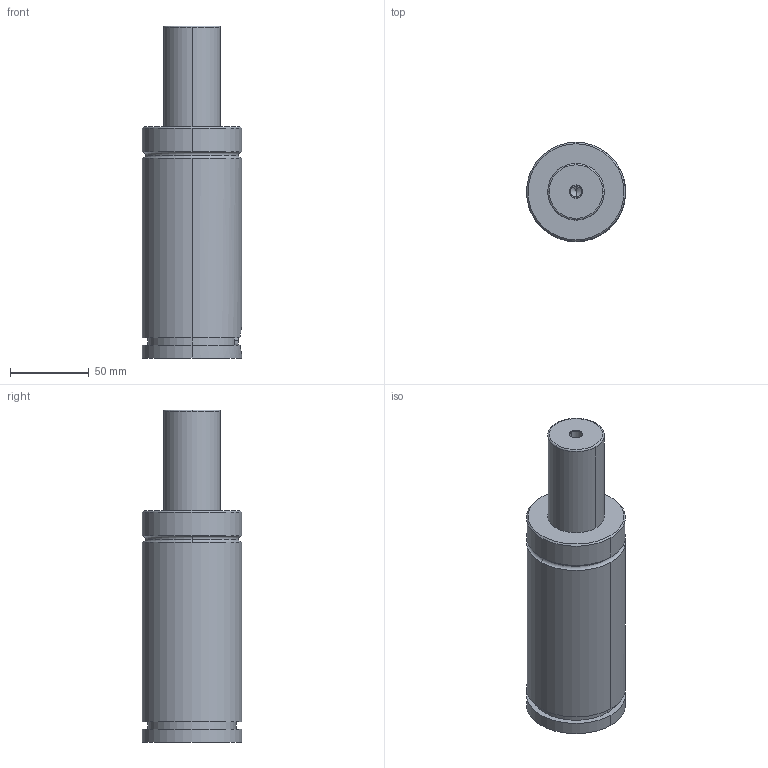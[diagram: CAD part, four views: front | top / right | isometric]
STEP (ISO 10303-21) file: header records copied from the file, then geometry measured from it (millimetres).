
FILE_DESCRIPTION(('FreeCAD Model'),'2;1');
FILE_NAME('Open CASCADE Shape Model','2024-11-12T16:00:04',('Author'),( ''),'Open CASCADE STEP processor 7.6','FreeCAD','Unknown');
FILE_SCHEMA(('AUTOMOTIVE_DESIGN { 1 0 10303 214 1 1 1 1 }'));
Length unit declared in the file: millimetre
Products named in the file (4): Unnamed; 2; 3; Cut
Assembly tree (3 placements, depth 2):
  Unnamed
    2
    3
    Cut
Bounding box: 63 x 63 x 211 mm (x, y, z)
Volume: 450911.2 mm3; surface area: 55971.1 mm2
Topology: 3 solids, 3 shells, 73 faces, 159 edges, 102 vertices
Faces by surface type: cylinder 33, plane 26, cone 8, torus 6
Full cylindrical faces by diameter (mm): 8 x4
Entity records: 2233 total; most frequent: CARTESIAN_POINT 471, DIRECTION 394, ORIENTED_EDGE 314, AXIS2_PLACEMENT_3D 166, EDGE_CURVE 157, VERTEX_POINT 102, CIRCLE 89, FACE_BOUND 85
